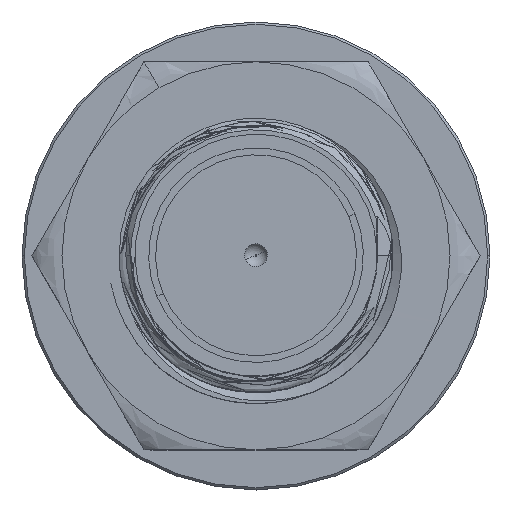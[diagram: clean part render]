
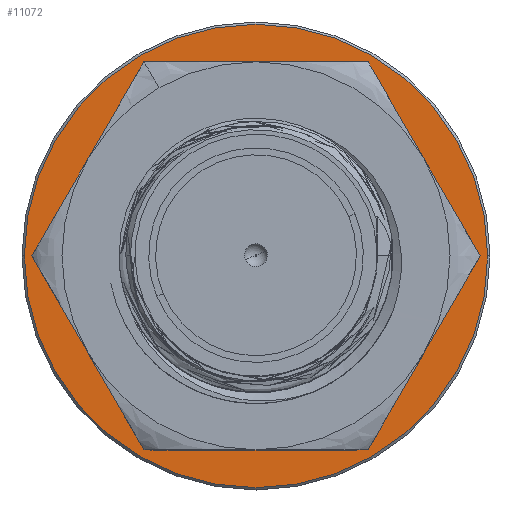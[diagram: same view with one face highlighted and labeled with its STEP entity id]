
A CAD part, top view. The second image highlights one B-rep face of the part: STEP entity #11072.
In plain terms, the highlighted planar face has unit normal (0, 0, 1) as drawn and (-1, 0, 0) by its records, which use the part's own axes.
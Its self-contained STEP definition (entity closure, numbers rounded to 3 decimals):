
#70 = AXIS2_PLACEMENT_3D ( 'NONE', #21727, #16671, #4235 ) ;
#1131 = ORIENTED_EDGE ( 'NONE', *, *, #11210, .T. ) ;
#2208 = VERTEX_POINT ( 'NONE', #17112 ) ;
#2608 = DIRECTION ( 'NONE',  ( 1., 0., 0. ) ) ;
#2827 = CARTESIAN_POINT ( 'NONE',  ( 0., 0., -6.25 ) ) ;
#2855 = DIRECTION ( 'NONE',  ( 0., 0., -1. ) ) ;
#2912 = DIRECTION ( 'NONE',  ( -1., 0., 0. ) ) ;
#2990 = AXIS2_PLACEMENT_3D ( 'NONE', #15060, #2608, #16555 ) ;
#3568 = AXIS2_PLACEMENT_3D ( 'NONE', #15621, #10093, #17223 ) ;
#4235 = DIRECTION ( 'NONE',  ( 0., 1., 0. ) ) ;
#5811 = CIRCLE ( 'NONE', #13899, 10.15 ) ;
#7468 = CARTESIAN_POINT ( 'NONE',  ( 0., 0., 10.15 ) ) ;
#7786 = ORIENTED_EDGE ( 'NONE', *, *, #20478, .T. ) ;
#8028 = FACE_OUTER_BOUND ( 'NONE', #17754, .T. ) ;
#8718 = CIRCLE ( 'NONE', #10195, 6.25 ) ;
#9305 = FACE_BOUND ( 'NONE', #10476, .T. ) ;
#10093 = DIRECTION ( 'NONE',  ( -1., 0., 0. ) ) ;
#10195 = AXIS2_PLACEMENT_3D ( 'NONE', #21965, #13349, #2855 ) ;
#10476 = EDGE_LOOP ( 'NONE', ( #7786, #16311 ) ) ;
#11072 = ADVANCED_FACE ( 'NONE', ( #9305, #8028 ), #16329, .F. ) ;
#11078 = EDGE_CURVE ( 'NONE', #19533, #14823, #19915, .T. ) ;
#11210 = EDGE_CURVE ( 'NONE', #22237, #2208, #16963, .T. ) ;
#11455 = CARTESIAN_POINT ( 'NONE',  ( 0., 0., 6.25 ) ) ;
#13349 = DIRECTION ( 'NONE',  ( 1., 0., 0. ) ) ;
#13899 = AXIS2_PLACEMENT_3D ( 'NONE', #20415, #2912, #20301 ) ;
#14823 = VERTEX_POINT ( 'NONE', #11455 ) ;
#15060 = CARTESIAN_POINT ( 'NONE',  ( 0., 0., 0. ) ) ;
#15621 = CARTESIAN_POINT ( 'NONE',  ( 0., 0., 0. ) ) ;
#16311 = ORIENTED_EDGE ( 'NONE', *, *, #11078, .T. ) ;
#16329 = PLANE ( 'NONE',  #70 ) ;
#16555 = DIRECTION ( 'NONE',  ( 0., 0., -1. ) ) ;
#16671 = DIRECTION ( 'NONE',  ( 1., 0., 0. ) ) ;
#16963 = CIRCLE ( 'NONE', #3568, 10.15 ) ;
#17112 = CARTESIAN_POINT ( 'NONE',  ( 0., 0., -10.15 ) ) ;
#17223 = DIRECTION ( 'NONE',  ( 0., 0., -1. ) ) ;
#17754 = EDGE_LOOP ( 'NONE', ( #19991, #1131 ) ) ;
#19533 = VERTEX_POINT ( 'NONE', #2827 ) ;
#19915 = CIRCLE ( 'NONE', #2990, 6.25 ) ;
#19991 = ORIENTED_EDGE ( 'NONE', *, *, #21352, .T. ) ;
#20301 = DIRECTION ( 'NONE',  ( 0., 0., -1. ) ) ;
#20415 = CARTESIAN_POINT ( 'NONE',  ( 0., 0., 0. ) ) ;
#20478 = EDGE_CURVE ( 'NONE', #14823, #19533, #8718, .T. ) ;
#21352 = EDGE_CURVE ( 'NONE', #2208, #22237, #5811, .T. ) ;
#21727 = CARTESIAN_POINT ( 'NONE',  ( 0., 0., 0. ) ) ;
#21965 = CARTESIAN_POINT ( 'NONE',  ( 0., 0., 0. ) ) ;
#22237 = VERTEX_POINT ( 'NONE', #7468 ) ;
